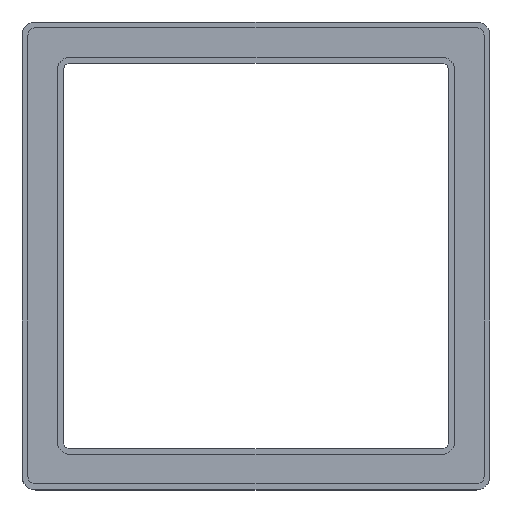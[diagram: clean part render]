
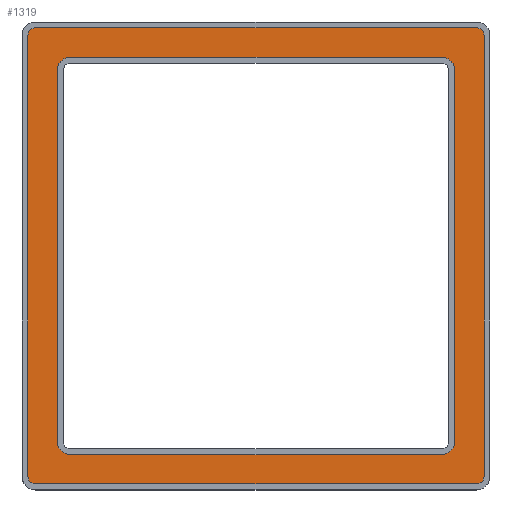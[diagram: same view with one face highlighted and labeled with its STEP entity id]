
A CAD part, top view. The second image highlights one B-rep face of the part: STEP entity #1319.
In plain terms, the highlighted planar face has unit normal (0, 0, 1).
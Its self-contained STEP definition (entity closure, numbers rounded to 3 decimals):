
#84=CARTESIAN_POINT('',(-51.,-47.5,27.8));
#85=VERTEX_POINT('',#84);
#92=CARTESIAN_POINT('',(-47.5,-51.0,27.8));
#93=VERTEX_POINT('',#92);
#94=CARTESIAN_POINT('',(-47.5,-47.5,27.8));
#95=DIRECTION('',(0.0,0.0,-1.0));
#96=DIRECTION('',(-1.0,0.0,0.0));
#97=AXIS2_PLACEMENT_3D('',#94,#95,#96);
#98=CIRCLE('',#97,3.5);
#99=EDGE_CURVE('',#93,#85,#98,.T.);
#123=CARTESIAN_POINT('',(-51.,47.5,27.8));
#124=VERTEX_POINT('',#123);
#131=CARTESIAN_POINT('',(-51.,-47.5,27.8));
#132=DIRECTION('',(0.0,1.0,0.0));
#133=VECTOR('',#132,95.);
#134=LINE('',#131,#133);
#135=EDGE_CURVE('',#85,#124,#134,.T.);
#155=CARTESIAN_POINT('',(-47.5,51.,27.8));
#156=VERTEX_POINT('',#155);
#163=CARTESIAN_POINT('',(-47.5,47.5,27.8));
#164=DIRECTION('',(0.0,0.0,-1.0));
#165=DIRECTION('',(0.0,1.0,0.0));
#166=AXIS2_PLACEMENT_3D('',#163,#164,#165);
#167=CIRCLE('',#166,3.5);
#168=EDGE_CURVE('',#124,#156,#167,.T.);
#187=CARTESIAN_POINT('',(47.5,51.,27.8));
#188=VERTEX_POINT('',#187);
#195=CARTESIAN_POINT('',(-47.5,51.,27.8));
#196=DIRECTION('',(1.0,0.0,0.0));
#197=VECTOR('',#196,95.);
#198=LINE('',#195,#197);
#199=EDGE_CURVE('',#156,#188,#198,.T.);
#219=CARTESIAN_POINT('',(51.,47.5,27.8));
#220=VERTEX_POINT('',#219);
#227=CARTESIAN_POINT('',(47.5,47.5,27.8));
#228=DIRECTION('',(0.0,0.0,-1.0));
#229=DIRECTION('',(1.0,0.0,0.0));
#230=AXIS2_PLACEMENT_3D('',#227,#228,#229);
#231=CIRCLE('',#230,3.5);
#232=EDGE_CURVE('',#188,#220,#231,.T.);
#1161=CARTESIAN_POINT('',(51.,-47.5,27.8));
#1162=VERTEX_POINT('',#1161);
#1169=CARTESIAN_POINT('',(51.,47.5,27.8));
#1170=DIRECTION('',(0.0,-1.0,0.0));
#1171=VECTOR('',#1170,95.);
#1172=LINE('',#1169,#1171);
#1173=EDGE_CURVE('',#220,#1162,#1172,.T.);
#1193=CARTESIAN_POINT('',(47.5,-51.0,27.8));
#1194=VERTEX_POINT('',#1193);
#1201=CARTESIAN_POINT('',(47.5,-47.5,27.8));
#1202=DIRECTION('',(0.0,0.0,-1.0));
#1203=DIRECTION('',(0.0,-1.0,0.0));
#1204=AXIS2_PLACEMENT_3D('',#1201,#1202,#1203);
#1205=CIRCLE('',#1204,3.5);
#1206=EDGE_CURVE('',#1162,#1194,#1205,.T.);
#1224=CARTESIAN_POINT('',(47.5,-51.0,27.8));
#1225=DIRECTION('',(-1.0,0.0,0.0));
#1226=VECTOR('',#1225,95.);
#1227=LINE('',#1224,#1226);
#1228=EDGE_CURVE('',#1194,#93,#1227,.T.);
#1234=CARTESIAN_POINT('',(0.,0.,27.8));
#1235=DIRECTION('',(0.0,0.0,1.0));
#1236=DIRECTION('',(1.0,0.0,0.0));
#1237=AXIS2_PLACEMENT_3D('',#1234,#1235,#1236);
#1238=PLANE('',#1237);
#1239=CARTESIAN_POINT('',(-56.5,58.5,27.8));
#1240=VERTEX_POINT('',#1239);
#1241=CARTESIAN_POINT('',(56.5,58.5,27.8));
#1242=VERTEX_POINT('',#1241);
#1243=CARTESIAN_POINT('',(-56.5,58.5,27.8));
#1244=DIRECTION('',(1.0,0.0,0.0));
#1245=VECTOR('',#1244,113.);
#1246=LINE('',#1243,#1245);
#1247=EDGE_CURVE('',#1240,#1242,#1246,.T.);
#1248=ORIENTED_EDGE('',*,*,#1247,.F.);
#1249=CARTESIAN_POINT('',(-58.5,56.5,27.8));
#1250=VERTEX_POINT('',#1249);
#1251=CARTESIAN_POINT('',(-56.5,56.5,27.8));
#1252=DIRECTION('',(0.0,0.0,-1.));
#1253=DIRECTION('',(-0.707,0.707,0.0));
#1254=AXIS2_PLACEMENT_3D('',#1251,#1252,#1253);
#1255=CIRCLE('',#1254,2.);
#1256=EDGE_CURVE('',#1250,#1240,#1255,.T.);
#1257=ORIENTED_EDGE('',*,*,#1256,.F.);
#1258=CARTESIAN_POINT('',(-58.5,-56.5,27.8));
#1259=VERTEX_POINT('',#1258);
#1260=CARTESIAN_POINT('',(-58.5,-56.5,27.8));
#1261=DIRECTION('',(0.0,1.0,0.0));
#1262=VECTOR('',#1261,113.);
#1263=LINE('',#1260,#1262);
#1264=EDGE_CURVE('',#1259,#1250,#1263,.T.);
#1265=ORIENTED_EDGE('',*,*,#1264,.F.);
#1266=CARTESIAN_POINT('',(-56.5,-58.5,27.8));
#1267=VERTEX_POINT('',#1266);
#1268=CARTESIAN_POINT('',(-56.5,-56.5,27.8));
#1269=DIRECTION('',(0.0,0.0,-1.));
#1270=DIRECTION('',(-0.707,-0.707,0.0));
#1271=AXIS2_PLACEMENT_3D('',#1268,#1269,#1270);
#1272=CIRCLE('',#1271,2.);
#1273=EDGE_CURVE('',#1267,#1259,#1272,.T.);
#1274=ORIENTED_EDGE('',*,*,#1273,.F.);
#1275=CARTESIAN_POINT('',(56.5,-58.5,27.8));
#1276=VERTEX_POINT('',#1275);
#1277=CARTESIAN_POINT('',(56.5,-58.5,27.8));
#1278=DIRECTION('',(-1.0,0.0,0.0));
#1279=VECTOR('',#1278,113.);
#1280=LINE('',#1277,#1279);
#1281=EDGE_CURVE('',#1276,#1267,#1280,.T.);
#1282=ORIENTED_EDGE('',*,*,#1281,.F.);
#1283=CARTESIAN_POINT('',(58.5,-56.5,27.8));
#1284=VERTEX_POINT('',#1283);
#1285=CARTESIAN_POINT('',(56.5,-56.5,27.8));
#1286=DIRECTION('',(0.0,0.0,-1.0));
#1287=DIRECTION('',(0.707,-0.707,0.0));
#1288=AXIS2_PLACEMENT_3D('',#1285,#1286,#1287);
#1289=CIRCLE('',#1288,2.);
#1290=EDGE_CURVE('',#1284,#1276,#1289,.T.);
#1291=ORIENTED_EDGE('',*,*,#1290,.F.);
#1292=CARTESIAN_POINT('',(58.5,56.5,27.8));
#1293=VERTEX_POINT('',#1292);
#1294=CARTESIAN_POINT('',(58.5,56.5,27.8));
#1295=DIRECTION('',(0.0,-1.0,0.0));
#1296=VECTOR('',#1295,113.);
#1297=LINE('',#1294,#1296);
#1298=EDGE_CURVE('',#1293,#1284,#1297,.T.);
#1299=ORIENTED_EDGE('',*,*,#1298,.F.);
#1300=CARTESIAN_POINT('',(56.5,56.5,27.8));
#1301=DIRECTION('',(0.0,0.0,-1.0));
#1302=DIRECTION('',(0.707,0.707,0.0));
#1303=AXIS2_PLACEMENT_3D('',#1300,#1301,#1302);
#1304=CIRCLE('',#1303,2.);
#1305=EDGE_CURVE('',#1242,#1293,#1304,.T.);
#1306=ORIENTED_EDGE('',*,*,#1305,.F.);
#1307=EDGE_LOOP('',(#1248,#1257,#1265,#1274,#1282,#1291,#1299,#1306));
#1308=FACE_OUTER_BOUND('',#1307,.T.);
#1309=ORIENTED_EDGE('',*,*,#199,.T.);
#1310=ORIENTED_EDGE('',*,*,#232,.T.);
#1311=ORIENTED_EDGE('',*,*,#1173,.T.);
#1312=ORIENTED_EDGE('',*,*,#1206,.T.);
#1313=ORIENTED_EDGE('',*,*,#1228,.T.);
#1314=ORIENTED_EDGE('',*,*,#99,.T.);
#1315=ORIENTED_EDGE('',*,*,#135,.T.);
#1316=ORIENTED_EDGE('',*,*,#168,.T.);
#1317=EDGE_LOOP('',(#1309,#1310,#1311,#1312,#1313,#1314,#1315,#1316));
#1318=FACE_BOUND('',#1317,.T.);
#1319=ADVANCED_FACE('',(#1308,#1318),#1238,.T.);
